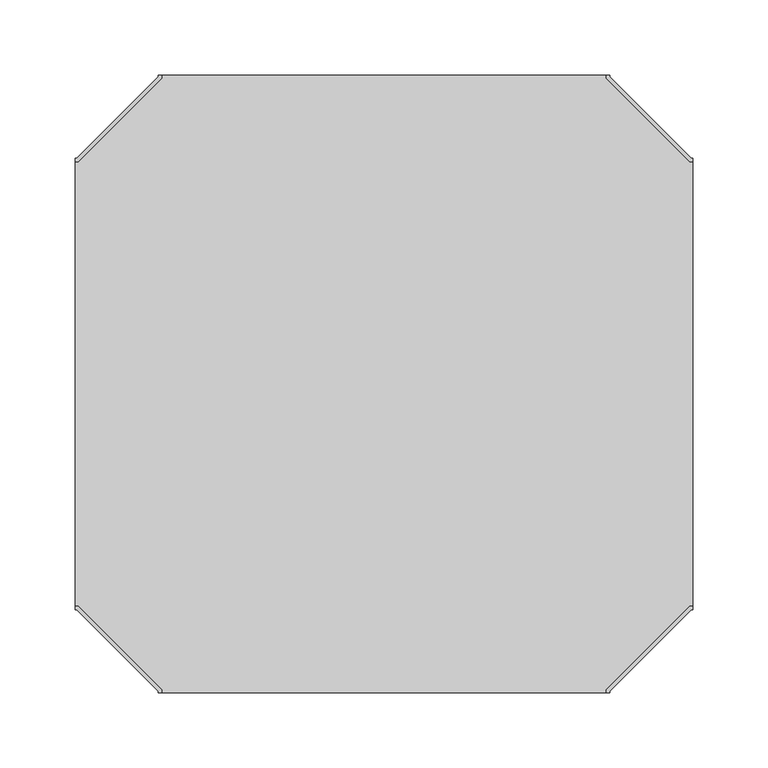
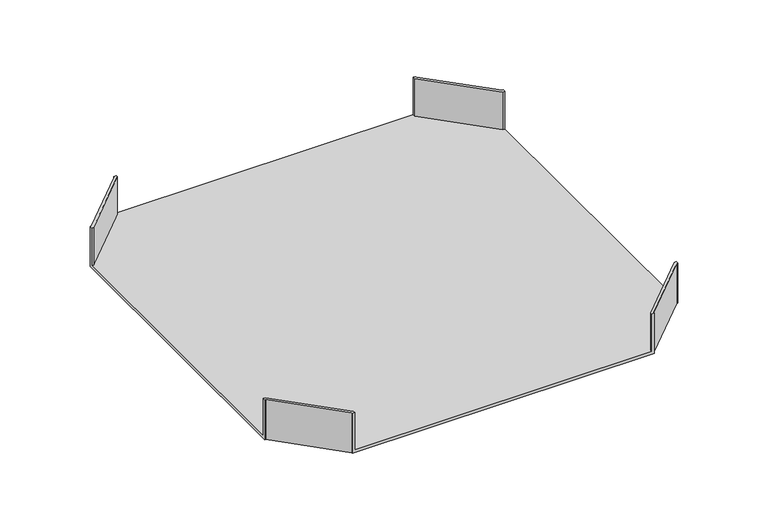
"""IFC4 building model written with IfcOpenShell, lengths in millimetres: cable carrier fitting geometry, BAKS_Horizontal cross over : CZKL_H42."""

from ifc_helpers import new_model, si_unit, origin, place, context, project, spatial, faceted_brep, source, transform, mapped, element, save


def cable_carrier_fitting_9011e538(model_context):
    return source(origin(), model_context, "Body", "Brep", [
        faceted_brep([(-147.46, -202.9478976, 21.0), (-202.9478976, -147.46, 21.0), (-205.0, -147.46, 21.0), (-205.0, -150.0, 21.0), (-204.0, -150.0, 21.0), (-150.0, -204.0, 21.0), (-150.0, -205.0, 21.0), (-147.46, -205.0, 21.0), (147.46, -202.9478976, 21.0), (147.46, -205.0, 21.0), (150.0, -205.0, 21.0), (150.0, -204.0, 21.0), (204.0, -150.0, 21.0), (205.0, -150.0, 21.0), (205.0, -147.46, 21.0), (202.9478976, -147.46, 21.0), (-147.46, 202.9478976, 21.0), (-147.46, 205.0, 21.0), (-150.0, 205.0, 21.0), (-150.0, 204.0, 21.0), (-204.0, 150.0, 21.0), (-205.0, 150.0, 21.0), (-205.0, 147.46, 21.0), (-202.9478976, 147.46, 21.0), (147.46, 202.9478976, 21.0), (202.9478976, 147.46, 21.0), (205.0, 147.46, 21.0), (205.0, 150.0, 21.0), (204.0, 150.0, 21.0), (150.0, 204.0, 21.0), (150.0, 205.0, 21.0), (147.46, 205.0, 21.0), (-150.0, -205.0, -21.0), (-150.0, -204.0, -21.0), (-204.0, -150.0, -21.0), (-205.0, -150.0, -21.0), (-205.0, 150.0, -21.0), (-204.0, 150.0, -21.0), (-150.0, 204.0, -21.0), (-150.0, 205.0, -21.0), (150.0, 205.0, -21.0), (150.0, 204.0, -21.0), (204.0, 150.0, -21.0), (205.0, 150.0, -21.0), (205.0, -150.0, -21.0), (204.0, -150.0, -21.0), (150.0, -204.0, -21.0), (150.0, -205.0, -21.0), (-147.46, -202.9478976, -18.46), (-202.9478976, -147.46, -18.46), (-205.0, -147.46, -18.46), (-205.0, 147.46, -18.46), (-204.0, -150.0, -18.46), (-150.0, -204.0, -18.46), (147.46, -205.0, -18.46), (-147.46, -205.0, -18.46), (150.0, -204.0, -18.46), (204.0, -150.0, -18.46), (205.0, 147.46, -18.46), (205.0, -147.46, -18.46), (202.9478976, -147.46, -18.46), (147.46, -202.9478976, -18.46), (-147.46, 202.9478976, -18.46), (-147.46, 205.0, -18.46), (147.46, 205.0, -18.46), (-150.0, 204.0, -18.46), (-204.0, 150.0, -18.46), (-202.9478976, 147.46, -18.46), (147.46, 202.9478976, -18.46), (202.9478976, 147.46, -18.46), (204.0, 150.0, -18.46), (150.0, 204.0, -18.46)], [[[0, 1, 2, 3, 4, 5, 6, 7]], [[8, 9, 10, 11, 12, 13, 14, 15]], [[16, 17, 18, 19, 20, 21, 22, 23]], [[24, 25, 26, 27, 28, 29, 30, 31]], [[32, 33, 34, 35, 36, 37, 38, 39, 40, 41, 42, 43, 44, 45, 46, 47]], [[1, 0, 48, 49]], [[2, 1, 49, 50]], [[3, 2, 50, 51, 22, 21, 36, 35]], [[4, 3, 35, 34, 52]], [[5, 4, 52, 34, 33, 53]], [[32, 6, 5, 53, 33]], [[7, 6, 32, 47, 10, 9, 54, 55]], [[0, 7, 55, 48]], [[12, 11, 56, 46, 45, 57]], [[44, 13, 12, 57, 45]], [[14, 13, 44, 43, 27, 26, 58, 59]], [[15, 14, 59, 60]], [[8, 15, 60, 61]], [[9, 8, 61, 54]], [[11, 10, 47, 46, 56]], [[17, 16, 62, 63]], [[18, 17, 63, 64, 31, 30, 40, 39]], [[19, 18, 39, 38, 65]], [[20, 19, 65, 38, 37, 66]], [[36, 21, 20, 66, 37]], [[23, 22, 51, 67]], [[16, 23, 67, 62]], [[25, 24, 68, 69]], [[26, 25, 69, 58]], [[28, 27, 43, 42, 70]], [[29, 28, 70, 42, 41, 71]], [[40, 30, 29, 71, 41]], [[24, 31, 64, 68]], [[55, 54, 61, 60, 59, 58, 69, 68, 64, 63, 62, 67, 51, 50, 49, 48]]]),
    ])


if __name__ == "__main__":
    model = new_model("IFC4")
    model_context = context("Model", 3, world=origin())
    ifc_project = project(units=[si_unit("LENGTHUNIT", "METRE", prefix="MILLI")], contexts=[model_context])
    site = spatial("IfcSite", under=ifc_project)
    building = spatial("IfcBuilding", under=site)
    placement = place(None, origin())
    cable_carrier_fitting_shape = cable_carrier_fitting_9011e538(model_context)
    element("IfcCableCarrierFitting", 1, ObjectType="BAKS_Horizontal cross over : CZKL_H42", at=placement, inside=building, context=model_context, shape_type="MappedRepresentation", body=[
        mapped(cable_carrier_fitting_shape, transform((0.0, 0.0, 0.0), x_axis=(1.0, 0.0, 0.0), y_axis=(0.0, 1.0, 0.0), z_axis=(0.0, 0.0, 1.0))),
    ])
    save(model, "model.ifc")
